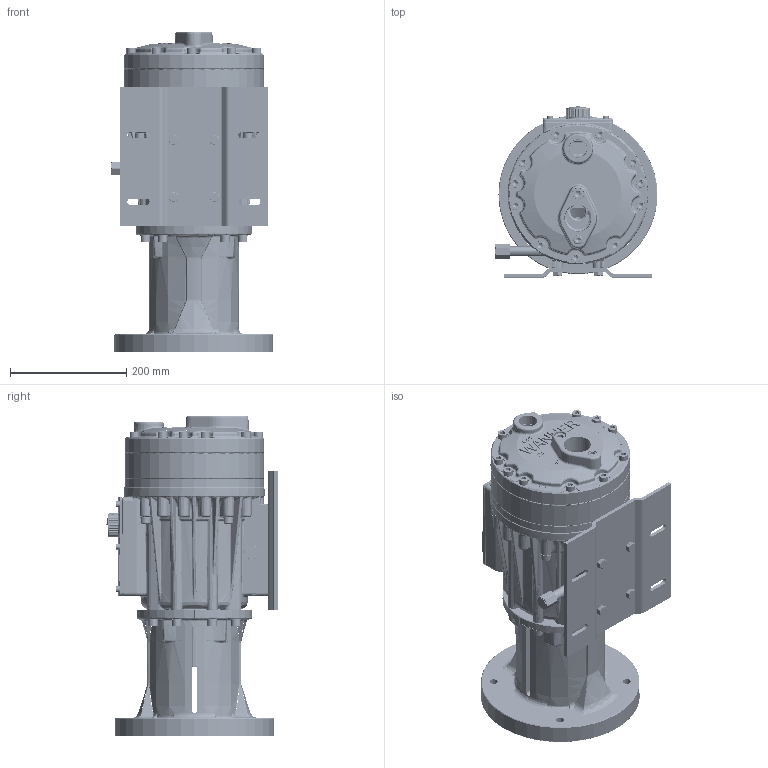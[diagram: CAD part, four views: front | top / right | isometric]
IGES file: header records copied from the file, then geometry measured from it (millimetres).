
Start section: SolidWorks IGES file using analytic representation for surfaces
Global section: file name: Q:\ENG\!!Gary\Outline-Dwgs\Latest-Pump-etc-OD\H25-M-1202.IGS; native system: SolidWorks 2007; preprocessor: SolidWorks 2007; author: garyi; date: 081104.131329; units: inch
Bounding box: 279.65 x 293.87 x 550.27 mm (x, y, z)
Surface area: 1828064.8 mm2 (no closed solid volume)
Topology: 0 solids, 0 shells, 11380 faces, 134373 edges, 134298 vertices
Faces by surface type: revolution 6714, bspline 4666
